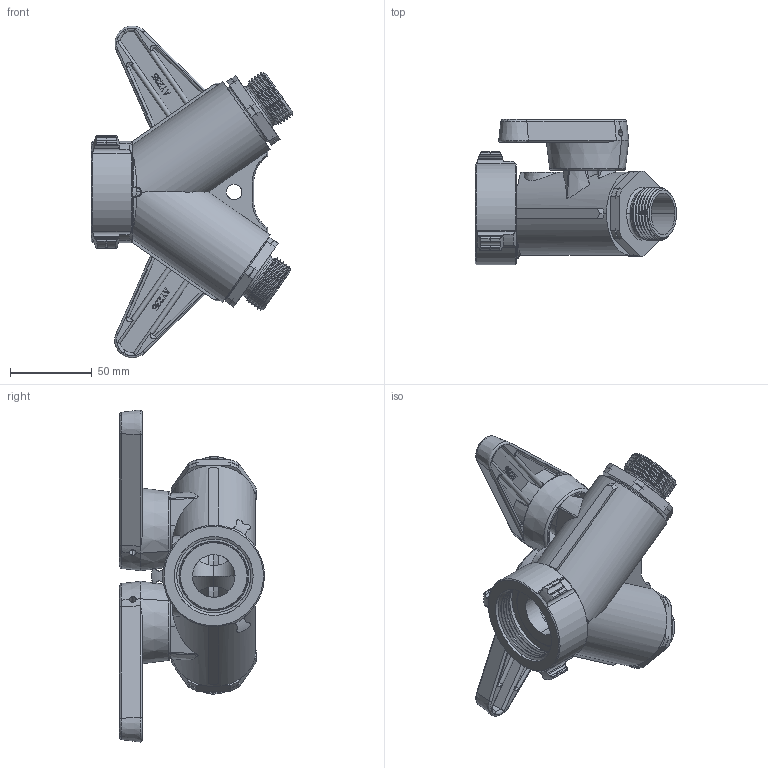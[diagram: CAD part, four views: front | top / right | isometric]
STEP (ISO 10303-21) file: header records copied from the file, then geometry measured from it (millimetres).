
FILE_DESCRIPTION (( 'STEP AP203' ), '1' );
FILE_NAME ('AYLNF-ND.STEP', '2017-10-06T20:20:53', ( 'Windows User' ), ( '' ), 'SwSTEP 2.0', 'SolidWorks 2016', '' );
FILE_SCHEMA (( 'CONFIG_CONTROL_DESIGN' ));
Length unit declared in the file: inch
Products named in the file (1): AYLNF-ND
Bounding box: 123.34 x 88.9 x 203.47 mm (x, y, z)
Surface area: 98168.1 mm2 (no closed solid volume)
Topology: 0 solids, 12 shells, 580 faces, 2282 edges, 1696 vertices
Faces by surface type: cylinder 255, plane 148, cone 91, bspline 64, torus 22
Entity records: 48111 total; most frequent: CARTESIAN_POINT 31564, ORIENTED_EDGE 3702, DIRECTION 2564, EDGE_CURVE 2278, VERTEX_POINT 1696, B_SPLINE_CURVE_WITH_KNOTS 931, LINE 882, VECTOR 882
